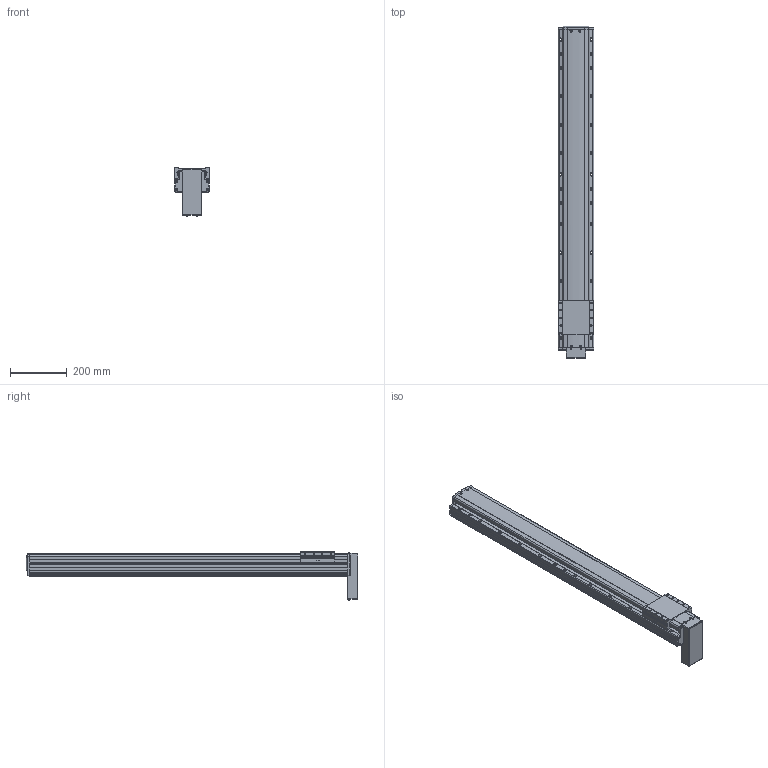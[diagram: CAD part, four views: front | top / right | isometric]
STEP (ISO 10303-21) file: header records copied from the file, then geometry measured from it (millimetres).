
FILE_DESCRIPTION(('STEP AP214'),'1');
FILE_NAME('Z:/Web/3D/PSA125/STP/PSA125-900 (3D)/PSA125ㅁㅁ-900PB.stp','2014-06-23T05:00:19',(' '),(' '),'Spatial InterOp 3D',' ',' ');
FILE_SCHEMA(('automotive_design'));
Length unit declared in the file: millimetre
Products named in the file (29): 스크루 : Round - M4.0 x 10.0; RRCV-PA120; SLIDE; BASE; FRCV-PA120-1(기준 뿔 제거); RR1500; 스크루 : Round - M4.0 x 6.0; 너트 : Square - M10.0 x 220.7419; 1; 2; 파트105; 스크루 : Round - M3.0 x 6.0
Bounding box: 125 x 1168.6 x 169.06 mm (x, y, z)
Volume: 9874996.5 mm3; surface area: 790757.8 mm2
Topology: 29 solids, 29 shells, 2210 faces, 5891 edges, 3736 vertices
Faces by surface type: plane 1148, cylinder 680, cone 266, sphere 52, torus 33, bspline 31
Entity records: 88272 total; most frequent: CARTESIAN_POINT 14633, DIRECTION 11784, ORIENTED_EDGE 11474, EDGE_CURVE 5737, AXIS2_PLACEMENT_3D 4031, VERTEX_POINT 3736, LINE 3722, VECTOR 3722
